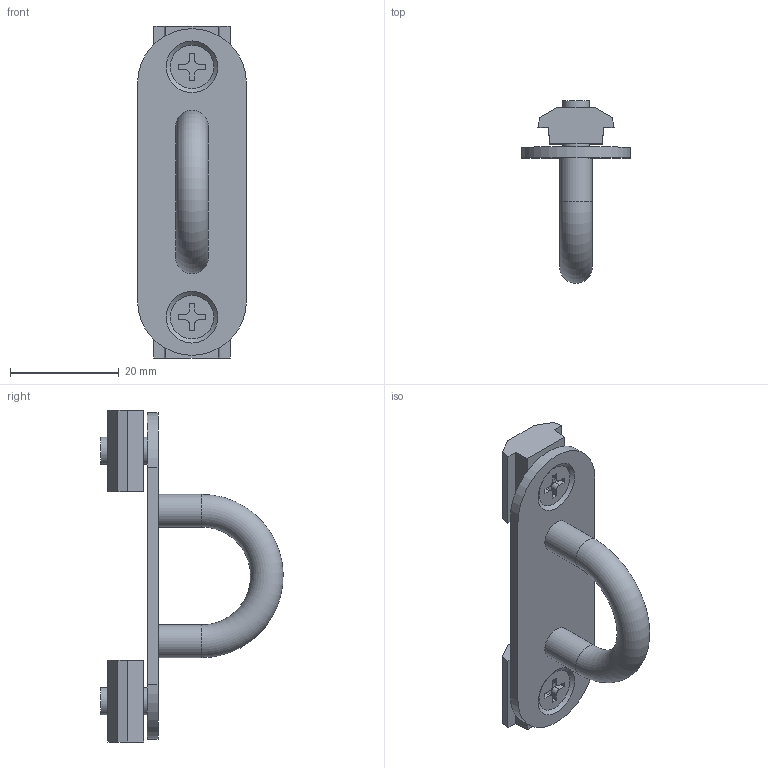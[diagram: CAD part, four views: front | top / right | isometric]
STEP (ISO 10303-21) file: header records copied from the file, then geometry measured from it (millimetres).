
FILE_DESCRIPTION(('STEP AP214'),'1');
FILE_NAME('PD6-B.stp','2017-07-17T08:22:07',(' '),(' '),'Spatial InterOp 3D',' ',' ');
FILE_SCHEMA(('automotive_design'));
Length unit declared in the file: millimetre
Products named in the file (4): PD6-B; PD6-H; NF40-M5; M5*10小頭皿ﾈｼﾞ
Assembly tree (5 placements, depth 2):
  PD6-B
    PD6-H
    NF40-M5  x2
    M5*10小頭皿ﾈｼﾞ  x2
Bounding box: 20 x 33.49 x 61 mm (x, y, z)
Volume: 5893.5 mm3; surface area: 5497.4 mm2
Topology: 5 solids, 5 shells, 79 faces, 200 edges, 133 vertices
Faces by surface type: plane 58, cylinder 16, cone 4, torus 1
Full cylindrical faces by diameter (mm): 5 x4, 6 x2
Entity records: 1763 total; most frequent: DIRECTION 230, CARTESIAN_POINT 227, ORIENTED_EDGE 206, EDGE_CURVE 103, LINE 78, VECTOR 78, AXIS2_PLACEMENT_3D 76, VERTEX_POINT 73
